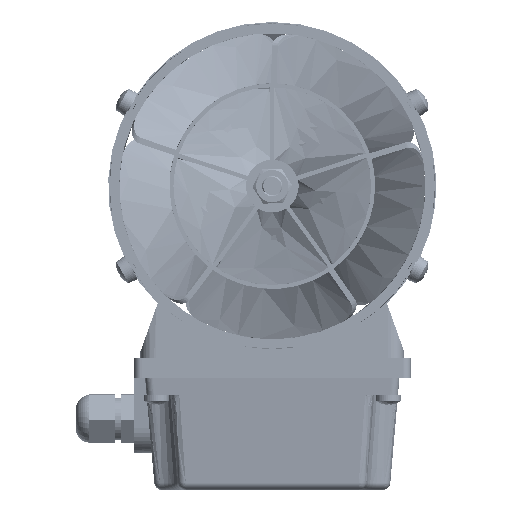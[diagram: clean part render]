
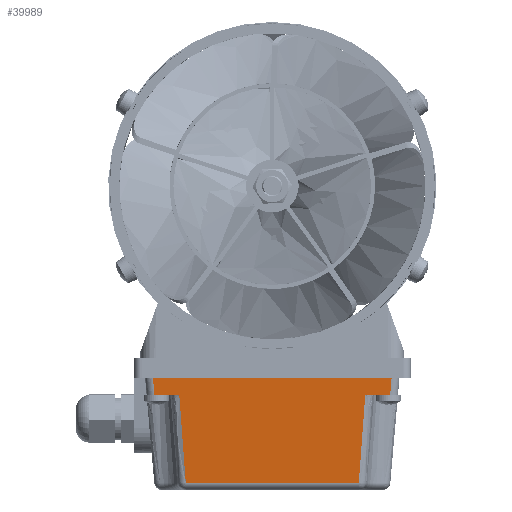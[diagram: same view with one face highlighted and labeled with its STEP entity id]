
A CAD part, left-side view. The second image highlights one B-rep face of the part: STEP entity #39989.
In plain terms, the highlighted planar face has unit normal (-0.996, 0, -0.087) as drawn and (0.996, 0.087, 0) by its records, which use the part's own axes.
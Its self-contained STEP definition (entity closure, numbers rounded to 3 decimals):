
#13568 = EDGE_LOOP ( 'NONE', ( #79134, #79142, #79135, #79124, #79152, #79110, #79147, #79109 ) ) ;
#17364 = CARTESIAN_POINT ( 'NONE',  ( 48.25, 7.5, 45.261 ) ) ;
#17409 = CARTESIAN_POINT ( 'NONE',  ( 47.681, 14., 44.693 ) ) ;
#17411 = CARTESIAN_POINT ( 'NONE',  ( 47.681, 14., -35.265 ) ) ;
#17415 = CARTESIAN_POINT ( 'NONE',  ( 44.771, 47.261, -32.812 ) ) ;
#17426 = CARTESIAN_POINT ( 'NONE',  ( 47.681, 14., 35.265 ) ) ;
#17446 = CARTESIAN_POINT ( 'NONE',  ( 47.681, 14., -44.693 ) ) ;
#17456 = CARTESIAN_POINT ( 'NONE',  ( 48.25, 7.5, -45.261 ) ) ;
#17460 = CARTESIAN_POINT ( 'NONE',  ( 44.771, 47.261, 32.812 ) ) ;
#20134 = LINE ( 'NONE', #74219, #20142 ) ;
#20142 = VECTOR ( 'NONE', #74175, 1000. ) ;
#20180 = LINE ( 'NONE', #74366, #20200 ) ;
#20185 = LINE ( 'NONE', #74668, #20220 ) ;
#20188 = VECTOR ( 'NONE', #74342, 1000. ) ;
#20200 = VECTOR ( 'NONE', #74529, 1000. ) ;
#20207 = LINE ( 'NONE', #74271, #20188 ) ;
#20208 = VECTOR ( 'NONE', #74519, 1000. ) ;
#20215 = LINE ( 'NONE', #74526, #20208 ) ;
#20220 = VECTOR ( 'NONE', #74691, 1000. ) ;
#20235 = VECTOR ( 'NONE', #73505, 1000. ) ;
#20283 = LINE ( 'NONE', #73516, #20235 ) ;
#27588 = CARTESIAN_POINT ( 'NONE',  ( 48.25, 7.5, 48.25 ) ) ;
#27599 = DIRECTION ( 'NONE',  ( 0.996, 0.087, 0. ) ) ;
#27601 = DIRECTION ( 'NONE',  ( -0.087, 0.996, 0. ) ) ;
#27604 = PLANE ( 'NONE',  #87069 ) ;
#39989 = ADVANCED_FACE ( 'NONE', ( #93842 ), #27604, .T. ) ;
#47936 = EDGE_CURVE ( 'NONE', #80731, #80721, #20134, .T. ) ;
#47945 = EDGE_CURVE ( 'NONE', #80671, #80540, #20207, .T. ) ;
#47952 = EDGE_CURVE ( 'NONE', #80700, #80651, #72090, .T. ) ;
#47953 = EDGE_CURVE ( 'NONE', #80651, #80671, #20180, .T. ) ;
#47954 = EDGE_CURVE ( 'NONE', #80721, #80712, #20215, .T. ) ;
#47975 = EDGE_CURVE ( 'NONE', #80540, #80731, #20185, .T. ) ;
#47999 = EDGE_CURVE ( 'NONE', #80712, #80702, #72023, .T. ) ;
#48017 = EDGE_CURVE ( 'NONE', #80700, #80702, #20283, .T. ) ;
#72023 = B_SPLINE_CURVE_WITH_KNOTS ( 'NONE', 3,
 ( #75061, #75103, #75045, #75080 ),
 .UNSPECIFIED., .F., .F.,
 ( 4, 4 ),
 ( 0., 1. ),
 .UNSPECIFIED. ) ;
#72090 = B_SPLINE_CURVE_WITH_KNOTS ( 'NONE', 3,
 ( #74485, #74536, #74445, #74462 ),
 .UNSPECIFIED., .F., .F.,
 ( 4, 4 ),
 ( 0., 1. ),
 .UNSPECIFIED. ) ;
#73505 = DIRECTION ( 'NONE',  ( 0., 0., -1. ) ) ;
#73516 = CARTESIAN_POINT ( 'NONE',  ( 44.771, 47.261, 0. ) ) ;
#74175 = DIRECTION ( 'NONE',  ( -0.087, 0.992, 0.087 ) ) ;
#74219 = CARTESIAN_POINT ( 'NONE',  ( 48.25, 7.5, -45.261 ) ) ;
#74271 = CARTESIAN_POINT ( 'NONE',  ( 47.681, 14., 44.693 ) ) ;
#74342 = DIRECTION ( 'NONE',  ( 0.087, -0.992, 0.087 ) ) ;
#74366 = CARTESIAN_POINT ( 'NONE',  ( 47.681, 14., 48.25 ) ) ;
#74445 = CARTESIAN_POINT ( 'NONE',  ( 46.818, 23.873, 34.447 ) ) ;
#74462 = CARTESIAN_POINT ( 'NONE',  ( 47.681, 14., 35.265 ) ) ;
#74485 = CARTESIAN_POINT ( 'NONE',  ( 44.771, 47.261, 32.812 ) ) ;
#74519 = DIRECTION ( 'NONE',  ( 0., 0., 1. ) ) ;
#74526 = CARTESIAN_POINT ( 'NONE',  ( 47.681, 14., 48.25 ) ) ;
#74529 = DIRECTION ( 'NONE',  ( 0., 0., 1. ) ) ;
#74536 = CARTESIAN_POINT ( 'NONE',  ( 45.848, 34.96, 33.629 ) ) ;
#74668 = CARTESIAN_POINT ( 'NONE',  ( 48.25, 7.5, 48.25 ) ) ;
#74691 = DIRECTION ( 'NONE',  ( 0., 0., -1. ) ) ;
#75045 = CARTESIAN_POINT ( 'NONE',  ( 45.848, 34.96, -33.629 ) ) ;
#75061 = CARTESIAN_POINT ( 'NONE',  ( 47.681, 14., -35.265 ) ) ;
#75080 = CARTESIAN_POINT ( 'NONE',  ( 44.771, 47.261, -32.812 ) ) ;
#75103 = CARTESIAN_POINT ( 'NONE',  ( 46.818, 23.873, -34.447 ) ) ;
#79109 = ORIENTED_EDGE ( 'NONE', *, *, #47953, .T. ) ;
#79110 = ORIENTED_EDGE ( 'NONE', *, *, #48017, .F. ) ;
#79124 = ORIENTED_EDGE ( 'NONE', *, *, #47954, .T. ) ;
#79134 = ORIENTED_EDGE ( 'NONE', *, *, #47945, .T. ) ;
#79135 = ORIENTED_EDGE ( 'NONE', *, *, #47936, .T. ) ;
#79142 = ORIENTED_EDGE ( 'NONE', *, *, #47975, .T. ) ;
#79147 = ORIENTED_EDGE ( 'NONE', *, *, #47952, .T. ) ;
#79152 = ORIENTED_EDGE ( 'NONE', *, *, #47999, .T. ) ;
#80540 = VERTEX_POINT ( 'NONE', #17364 ) ;
#80651 = VERTEX_POINT ( 'NONE', #17426 ) ;
#80671 = VERTEX_POINT ( 'NONE', #17409 ) ;
#80700 = VERTEX_POINT ( 'NONE', #17460 ) ;
#80702 = VERTEX_POINT ( 'NONE', #17415 ) ;
#80712 = VERTEX_POINT ( 'NONE', #17411 ) ;
#80721 = VERTEX_POINT ( 'NONE', #17446 ) ;
#80731 = VERTEX_POINT ( 'NONE', #17456 ) ;
#87069 = AXIS2_PLACEMENT_3D ( 'NONE', #27588, #27599, #27601 ) ;
#93842 = FACE_OUTER_BOUND ( 'NONE', #13568, .T. ) ;
